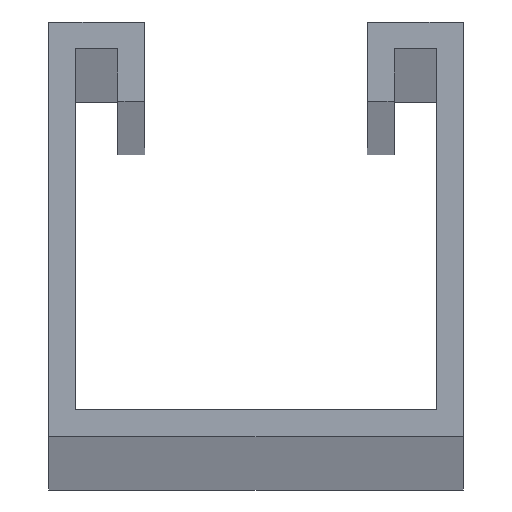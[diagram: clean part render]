
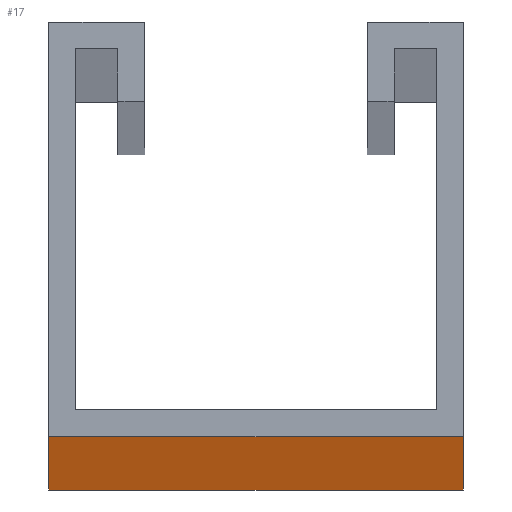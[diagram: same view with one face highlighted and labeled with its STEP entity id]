
A CAD part, top view. The second image highlights one B-rep face of the part: STEP entity #17.
In plain terms, the highlighted planar face has unit normal (0, -1, 0).
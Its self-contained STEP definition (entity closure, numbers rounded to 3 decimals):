
#17 = ADVANCED_FACE('',(#18),#32,.F.);
#18 = FACE_BOUND('',#19,.F.);
#19 = EDGE_LOOP('',(#20,#55,#83,#111));
#20 = ORIENTED_EDGE('',*,*,#21,.T.);
#21 = EDGE_CURVE('',#22,#24,#26,.T.);
#22 = VERTEX_POINT('',#23);
#23 = CARTESIAN_POINT('',(-20.64,0.,0.));
#24 = VERTEX_POINT('',#25);
#25 = CARTESIAN_POINT('',(-20.64,0.,3048.));
#26 = SURFACE_CURVE('',#27,(#31,#43),.PCURVE_S1.);
#27 = LINE('',#28,#29);
#28 = CARTESIAN_POINT('',(-20.64,0.,0.));
#29 = VECTOR('',#30,1.);
#30 = DIRECTION('',(0.,0.,1.));
#31 = PCURVE('',#32,#37);
#32 = PLANE('',#33);
#33 = AXIS2_PLACEMENT_3D('',#34,#35,#36);
#34 = CARTESIAN_POINT('',(-20.64,0.,0.));
#35 = DIRECTION('',(0.,1.,0.));
#36 = DIRECTION('',(1.,0.,0.));
#37 = DEFINITIONAL_REPRESENTATION('',(#38),#42);
#38 = LINE('',#39,#40);
#39 = CARTESIAN_POINT('',(0.,0.));
#40 = VECTOR('',#41,1.);
#41 = DIRECTION('',(0.,-1.));
#42 = ( GEOMETRIC_REPRESENTATION_CONTEXT(2) 
PARAMETRIC_REPRESENTATION_CONTEXT() REPRESENTATION_CONTEXT('2D SPACE',''
  ) );
#43 = PCURVE('',#44,#49);
#44 = PLANE('',#45);
#45 = AXIS2_PLACEMENT_3D('',#46,#47,#48);
#46 = CARTESIAN_POINT('',(-20.64,41.28,0.));
#47 = DIRECTION('',(1.,0.,-0.));
#48 = DIRECTION('',(0.,-1.,0.));
#49 = DEFINITIONAL_REPRESENTATION('',(#50),#54);
#50 = LINE('',#51,#52);
#51 = CARTESIAN_POINT('',(41.28,0.));
#52 = VECTOR('',#53,1.);
#53 = DIRECTION('',(0.,-1.));
#54 = ( GEOMETRIC_REPRESENTATION_CONTEXT(2) 
PARAMETRIC_REPRESENTATION_CONTEXT() REPRESENTATION_CONTEXT('2D SPACE',''
  ) );
#55 = ORIENTED_EDGE('',*,*,#56,.T.);
#56 = EDGE_CURVE('',#24,#57,#59,.T.);
#57 = VERTEX_POINT('',#58);
#58 = CARTESIAN_POINT('',(20.64,0.,3048.));
#59 = SURFACE_CURVE('',#60,(#64,#71),.PCURVE_S1.);
#60 = LINE('',#61,#62);
#61 = CARTESIAN_POINT('',(-20.64,0.,3048.));
#62 = VECTOR('',#63,1.);
#63 = DIRECTION('',(1.,0.,0.));
#64 = PCURVE('',#32,#65);
#65 = DEFINITIONAL_REPRESENTATION('',(#66),#70);
#66 = LINE('',#67,#68);
#67 = CARTESIAN_POINT('',(0.,-3048.));
#68 = VECTOR('',#69,1.);
#69 = DIRECTION('',(1.,0.));
#70 = ( GEOMETRIC_REPRESENTATION_CONTEXT(2) 
PARAMETRIC_REPRESENTATION_CONTEXT() REPRESENTATION_CONTEXT('2D SPACE',''
  ) );
#71 = PCURVE('',#72,#77);
#72 = PLANE('',#73);
#73 = AXIS2_PLACEMENT_3D('',#74,#75,#76);
#74 = CARTESIAN_POINT('',(0.,19.056,3048.)
  );
#75 = DIRECTION('',(0.,0.,1.));
#76 = DIRECTION('',(1.,0.,-0.));
#77 = DEFINITIONAL_REPRESENTATION('',(#78),#82);
#78 = LINE('',#79,#80);
#79 = CARTESIAN_POINT('',(-20.64,-19.056));
#80 = VECTOR('',#81,1.);
#81 = DIRECTION('',(1.,0.));
#82 = ( GEOMETRIC_REPRESENTATION_CONTEXT(2) 
PARAMETRIC_REPRESENTATION_CONTEXT() REPRESENTATION_CONTEXT('2D SPACE',''
  ) );
#83 = ORIENTED_EDGE('',*,*,#84,.F.);
#84 = EDGE_CURVE('',#85,#57,#87,.T.);
#85 = VERTEX_POINT('',#86);
#86 = CARTESIAN_POINT('',(20.64,0.,0.));
#87 = SURFACE_CURVE('',#88,(#92,#99),.PCURVE_S1.);
#88 = LINE('',#89,#90);
#89 = CARTESIAN_POINT('',(20.64,0.,0.));
#90 = VECTOR('',#91,1.);
#91 = DIRECTION('',(0.,0.,1.));
#92 = PCURVE('',#32,#93);
#93 = DEFINITIONAL_REPRESENTATION('',(#94),#98);
#94 = LINE('',#95,#96);
#95 = CARTESIAN_POINT('',(41.28,0.));
#96 = VECTOR('',#97,1.);
#97 = DIRECTION('',(0.,-1.));
#98 = ( GEOMETRIC_REPRESENTATION_CONTEXT(2) 
PARAMETRIC_REPRESENTATION_CONTEXT() REPRESENTATION_CONTEXT('2D SPACE',''
  ) );
#99 = PCURVE('',#100,#105);
#100 = PLANE('',#101);
#101 = AXIS2_PLACEMENT_3D('',#102,#103,#104);
#102 = CARTESIAN_POINT('',(20.64,0.,0.));
#103 = DIRECTION('',(-1.,0.,0.));
#104 = DIRECTION('',(0.,1.,0.));
#105 = DEFINITIONAL_REPRESENTATION('',(#106),#110);
#106 = LINE('',#107,#108);
#107 = CARTESIAN_POINT('',(0.,0.));
#108 = VECTOR('',#109,1.);
#109 = DIRECTION('',(0.,-1.));
#110 = ( GEOMETRIC_REPRESENTATION_CONTEXT(2) 
PARAMETRIC_REPRESENTATION_CONTEXT() REPRESENTATION_CONTEXT('2D SPACE',''
  ) );
#111 = ORIENTED_EDGE('',*,*,#112,.F.);
#112 = EDGE_CURVE('',#22,#85,#113,.T.);
#113 = SURFACE_CURVE('',#114,(#118,#125),.PCURVE_S1.);
#114 = LINE('',#115,#116);
#115 = CARTESIAN_POINT('',(-20.64,0.,0.));
#116 = VECTOR('',#117,1.);
#117 = DIRECTION('',(1.,0.,0.));
#118 = PCURVE('',#32,#119);
#119 = DEFINITIONAL_REPRESENTATION('',(#120),#124);
#120 = LINE('',#121,#122);
#121 = CARTESIAN_POINT('',(0.,0.));
#122 = VECTOR('',#123,1.);
#123 = DIRECTION('',(1.,0.));
#124 = ( GEOMETRIC_REPRESENTATION_CONTEXT(2) 
PARAMETRIC_REPRESENTATION_CONTEXT() REPRESENTATION_CONTEXT('2D SPACE',''
  ) );
#125 = PCURVE('',#126,#131);
#126 = PLANE('',#127);
#127 = AXIS2_PLACEMENT_3D('',#128,#129,#130);
#128 = CARTESIAN_POINT('',(0.,19.056,0.));
#129 = DIRECTION('',(0.,0.,1.));
#130 = DIRECTION('',(1.,0.,-0.));
#131 = DEFINITIONAL_REPRESENTATION('',(#132),#136);
#132 = LINE('',#133,#134);
#133 = CARTESIAN_POINT('',(-20.64,-19.056));
#134 = VECTOR('',#135,1.);
#135 = DIRECTION('',(1.,0.));
#136 = ( GEOMETRIC_REPRESENTATION_CONTEXT(2) 
PARAMETRIC_REPRESENTATION_CONTEXT() REPRESENTATION_CONTEXT('2D SPACE',''
  ) );
